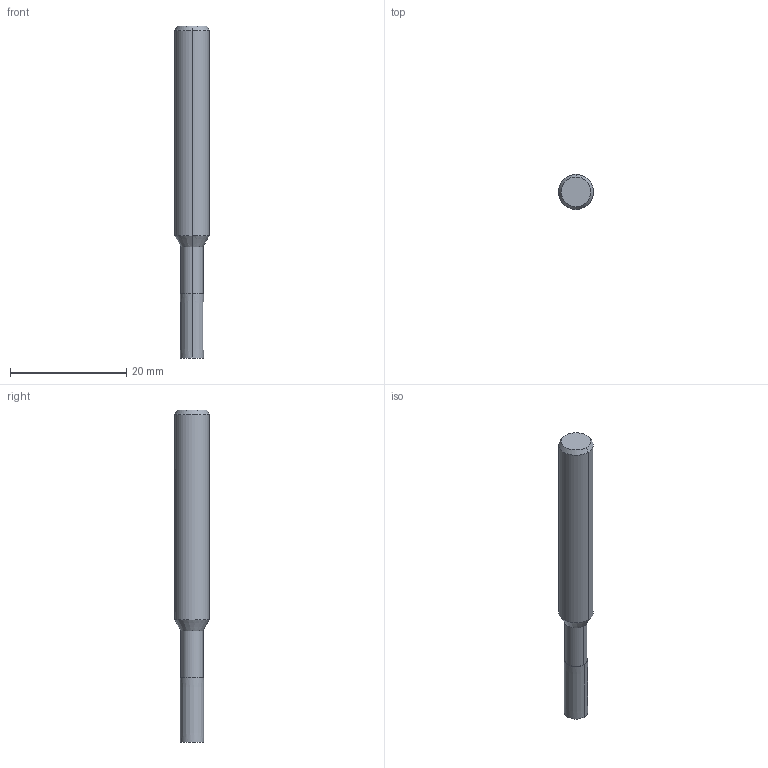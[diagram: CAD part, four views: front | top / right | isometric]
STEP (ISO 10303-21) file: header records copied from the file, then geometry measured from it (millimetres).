
FILE_DESCRIPTION(('no description'),'unknown implementation level');
FILE_NAME('solidhtHymqR_C6fQIJij210qEOaqEtg_1.STP',' ',('CIMSOURCE GmbH'),('CADClick - KiM GmbH - www.kimweb.de'),'unknown preprocess','ACIS','unknown authorization');
FILE_SCHEMA(('automotive_design'));
Length unit declared in the file: millimetre
Products named in the file (2): NOCUT; CUT
Bounding box: 6 x 6 x 57 mm (x, y, z)
Volume: 1280.9 mm3; surface area: 1147.4 mm2
Topology: 2 solids, 2 shells, 41 faces, 93 edges, 58 vertices
Faces by surface type: cylinder 16, cone 14, plane 11
Entity records: 2488 total; most frequent: CARTESIAN_POINT 414, DIRECTION 211, STYLED_ITEM 194, PRESENTATION_STYLE_ASSIGNMENT 194, COLOUR_RGB 194, ORIENTED_EDGE 186, EDGE_CURVE 93, CURVE_STYLE 93
